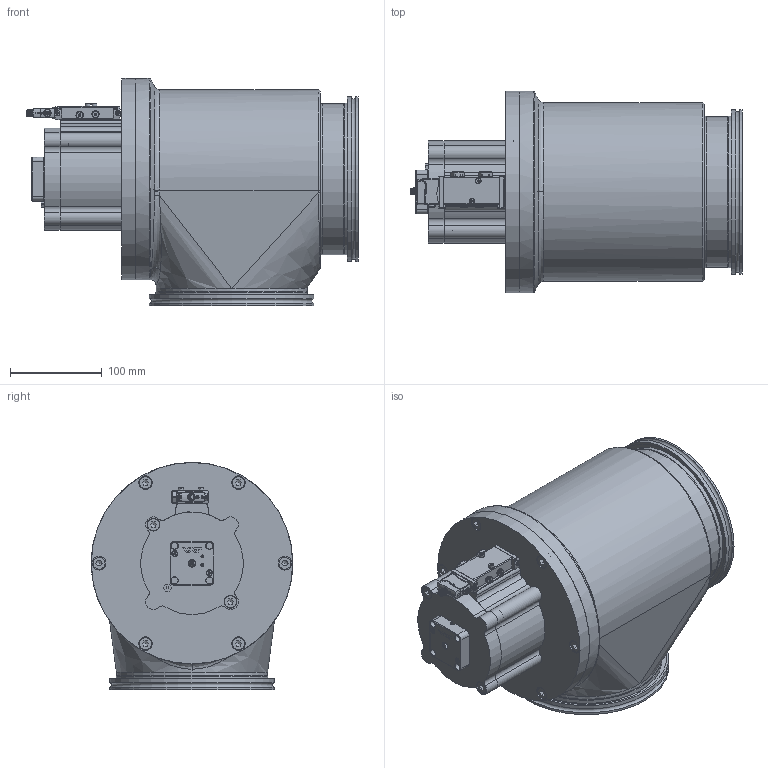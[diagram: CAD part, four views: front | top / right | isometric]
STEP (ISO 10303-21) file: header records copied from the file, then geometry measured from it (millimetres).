
FILE_DESCRIPTION(/* description */ (''),/* implementation_level */ '2;1');
FILE_NAME(/* name */ '1158977042_203.stp',/* time_stamp */ '2016-03-04T11:02:19+01:00',/* author */ (''),/* organization */ (''),/* preprocessor_version */ 'ST-DEVELOPER v15',/* originating_system */ 'SIEMENS PLM Software NX 9.0',/* authorisation */ '');
FILE_SCHEMA (('AP203_CONFIGURATION_CONTROLLED_3D_DESIGN_OF_MECHANICAL_PARTS_AND_ASSEMBLIES_MIM_LF { 1 0 10303 403 2 1 2}'));
Length unit declared in the file: millimetre
Products named in the file (21): 233359; 236204_1.1; 366217; n-6134-404.1; n-6005-429.1; 571495; 538796; 500093_23083ID; n-6121-026.2; 517625_23092ID; 711043; 544422; n-7636-200.2; 542372; 228777; 476060; 239983.3; 572183_MODEL; 500278_MODEL; 544362_MODEL; 705606
Assembly tree (32 placements, depth 3):
  705606
    476060
    228777  x6
    542372
    544362_MODEL
      517625_23092ID
      n-6121-026.2  x2
    n-7636-200.2
    500278_MODEL
      500093_23083ID
    544422
    572183_MODEL
      538796
      571495  x2
      n-6005-429.1  x2
      n-6134-404.1  x2
      366217  x2
    239983.3
      236204_1.1  x2
      233359
    711043  x2
Bounding box: 362.65 x 220 x 248 mm (x, y, z)
Volume: 2686020.8 mm3; surface area: 624948.3 mm2
Topology: 53 solids, 55 shells, 1663 faces, 4054 edges, 2610 vertices
Faces by surface type: plane 881, cylinder 470, cone 170, torus 63, bspline 52, extrusion 19, sphere 8
Full cylindrical faces by diameter (mm): 1 x3, 2.46 x2, 2.5 x7, 2.6 x2, 3 x11, 3.2 x4, 3.8 x1, 3.85 x2, 4 x1, 4.2 x2, 4.5 x1, 5 x1, 5.5 x2, 5.6 x3, 5.8 x1, 6 x4, 6.2 x2, 6.5 x2, 6.66 x8, 6.7 x8, 6.8 x10, 6.9 x1, 7.2 x1, 7.4 x3, 8 x20, 8.1 x1, 8.15 x2, 8.3 x6, 8.4 x1, 8.566 x5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
Entity records: 53386 total; most frequent: CARTESIAN_POINT 12466, DIRECTION 6975, ORIENTED_EDGE 6584, EDGE_CURVE 3292, AXIS2_PLACEMENT_3D 2634, VERTEX_POINT 2271, EDGE_LOOP 1915, VECTOR 1707
